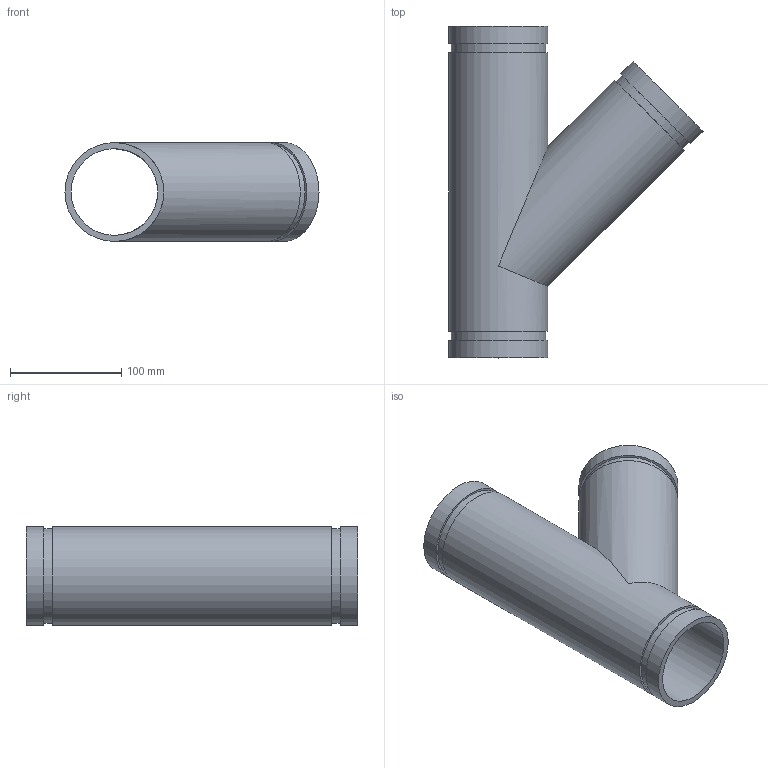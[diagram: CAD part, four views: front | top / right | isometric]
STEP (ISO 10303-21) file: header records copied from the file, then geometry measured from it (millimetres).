
FILE_DESCRIPTION(/* description */ ('VIC 45 DEG FABRICATED LATERAL No 30 SWS (OGS)','CAx-IF Rec.Pracs.---Representation and Presentation of Product Manufacturing Information (PMI)---4.0---2014-10-13'),/* implementation_level */ '2;1');
FILE_NAME(/* name */ 'C:\Users\kkamble\AppData\Roaming\Autodesk\ApplicationPlugins\Back Up\Victaulic_IPS_Lateral 45 Deg_No 30 SWS (OGS)\Victaulic_IPS_Lateral 45 Deg_No 30 SWS (OGS)_3 (80).stp',/* time_stamp */ '2020-09-16T22:20:39+06:00',/* author */ ('cgray'),/* organization */ ('Victaulic'),/* preprocessor_version */ 'ST-DEVELOPER v17.2',/* originating_system */ 'Autodesk Inventor 2019',/* authorisation */ '');
FILE_SCHEMA (('AP242_MANAGED_MODEL_BASED_3D_ENGINEERING_MIM_LF { 1 0 10303 442 1 1 4 }'));
Length unit declared in the file: inch
Products named in the file (1): 30 SWS-03.0
Bounding box: 228.55 x 298.45 x 88.9 mm (x, y, z)
Volume: 618461.7 mm3; surface area: 237305 mm2
Topology: 1 solids, 1 shells, 19 faces, 45 edges, 34 vertices
Faces by surface type: cylinder 10, plane 9
Full cylindrical faces by diameter (mm): 77.927 x2, 84.938 x3, 88.9 x5
Entity records: 748 total; most frequent: DIRECTION 145, CARTESIAN_POINT 116, ORIENTED_EDGE 90, AXIS2_PLACEMENT_3D 67, EDGE_CURVE 45, VERTEX_POINT 34, EDGE_LOOP 29, CIRCLE 27
